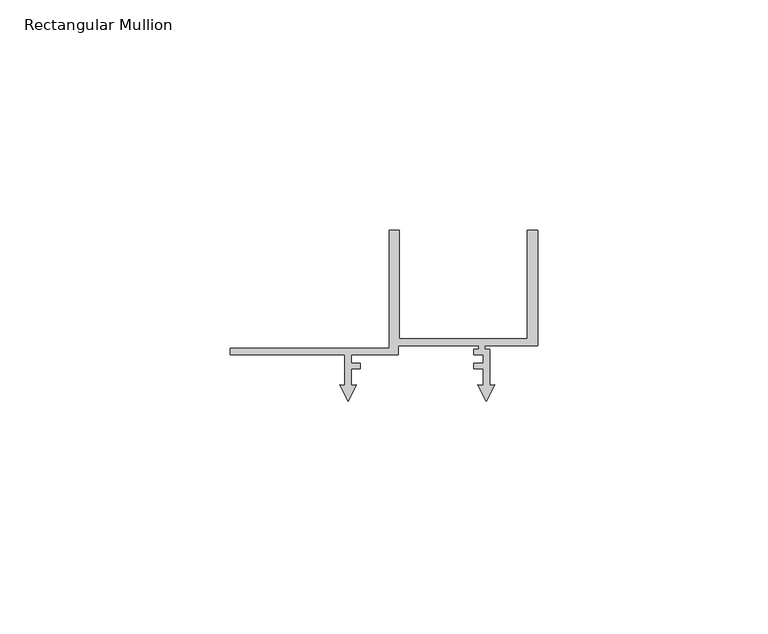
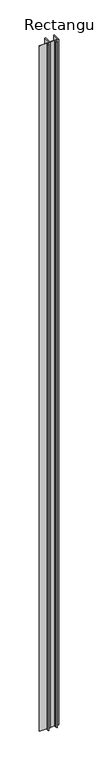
"""IFC4 building model written with IfcOpenShell, lengths in millimetres: member geometry, Rectangular Mullion : Renson_Linarte_LA-E25-01 Zone B."""

from ifc_helpers import new_model, si_unit, frame, origin, place, context, project, spatial, polyline, outline, extrude, source, transform, mapped, element, save


def rectangular_mullion_087e8397(model_context):
    return source(origin(), model_context, "Body", "SweptSolid", [
        extrude(outline(polyline([(-66.6, 21.6000494), (-32.2, 21.6000494), (-32.2, 47.1000494), (-30.0, 47.1000494), (-30.0, 23.6000494), (-2.2, 23.6000494), (-2.2, 47.1000494), (0.0, 47.1000494), (0.0, 22.1000494), (-11.4, 22.1000494), (-11.4, 21.3015754), (-10.3999985, 21.3015754), (-10.3999985, 13.5038712), (-9.284262, 13.6014855), (-11.0999986, 10.037898), (-12.9157351, 13.6014855), (-11.7999987, 13.5038712), (-11.7999987, 17.0979618), (-13.7875618, 17.0979618), (-13.7875618, 18.3000494), (-11.8091794, 18.3000494), (-11.8091794, 20.1000494), (-13.7880766, 20.1000494), (-13.7880766, 21.3015754), (-12.8, 21.3015754), (-12.8, 22.1000494), (-30.1732051, 22.1000494), (-30.1732051, 20.1000494), (-40.3999995, 20.1000494), (-40.3999995, 18.3000494), (-38.4077357, 18.3000494), (-38.4077357, 17.099221), (-40.3999998, 17.099221), (-40.3999998, 13.5071867), (-39.2744672, 13.6056581), (-41.0999986, 10.0228474), (-42.9255299, 13.6056578), (-41.8, 13.5071867), (-41.8, 20.1000494), (-66.6, 20.1000494), (-66.6, 21.6000494)])), frame((0.0, 0.0, -2475.0), z_axis=(0.0, 0.0, 1.0), x_axis=(1.0, 0.0, 0.0)), (0.0, 0.0, 1.0), 2475.0),
    ])


if __name__ == "__main__":
    model = new_model("IFC4")
    model_context = context("Model", 3, world=origin())
    ifc_project = project(units=[si_unit("LENGTHUNIT", "METRE", prefix="MILLI")], contexts=[model_context])
    site = spatial("IfcSite", under=ifc_project)
    building = spatial("IfcBuilding", under=site)
    placement = place(None, origin())
    rectangular_mullion_shape = rectangular_mullion_087e8397(model_context)
    element("IfcMember", 1, ObjectType="Rectangular Mullion : Renson_Linarte_LA-E25-01 Zone B", at=placement, inside=building, context=model_context, shape_type="MappedRepresentation", body=[
        mapped(rectangular_mullion_shape, transform((0.0, 0.0, 0.0), x_axis=(1.0, 0.0, 0.0), y_axis=(0.0, 1.0, 0.0), z_axis=(0.0, 0.0, 1.0))),
    ])
    save(model, "model.ifc")
